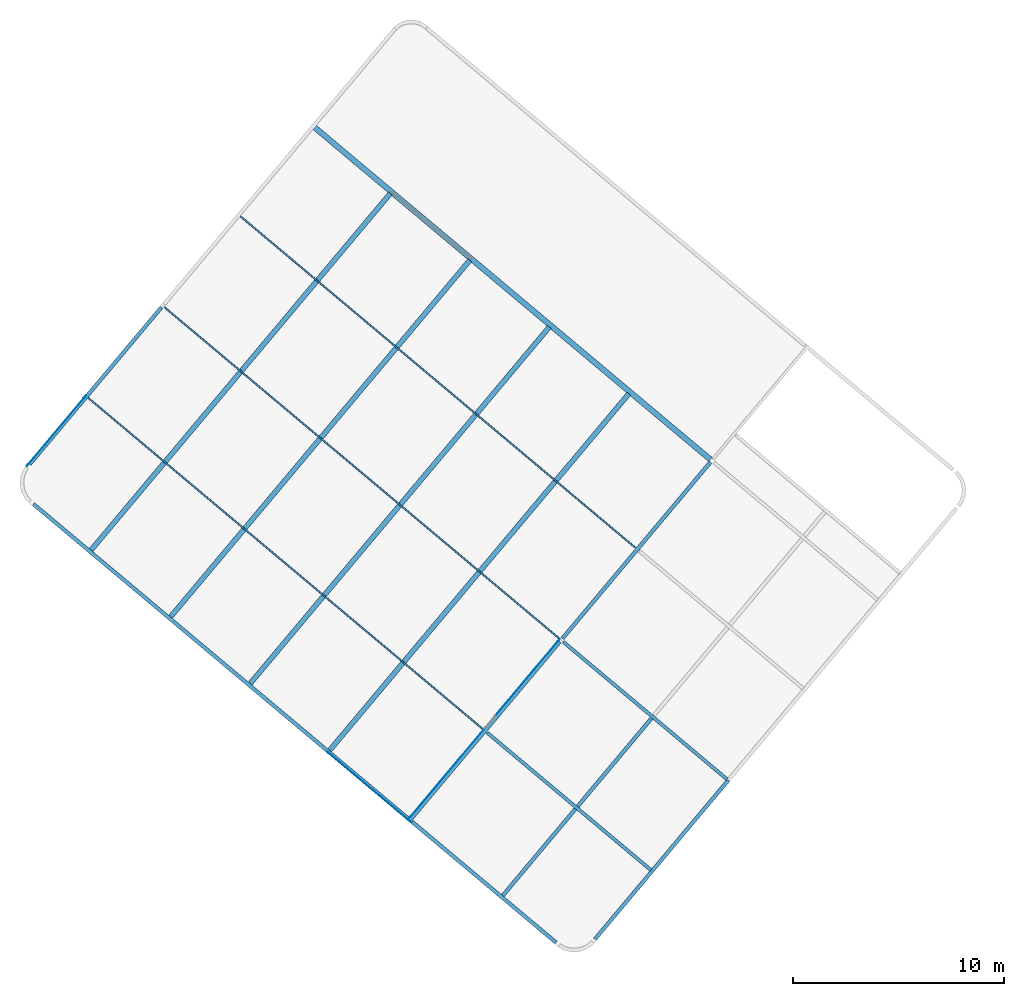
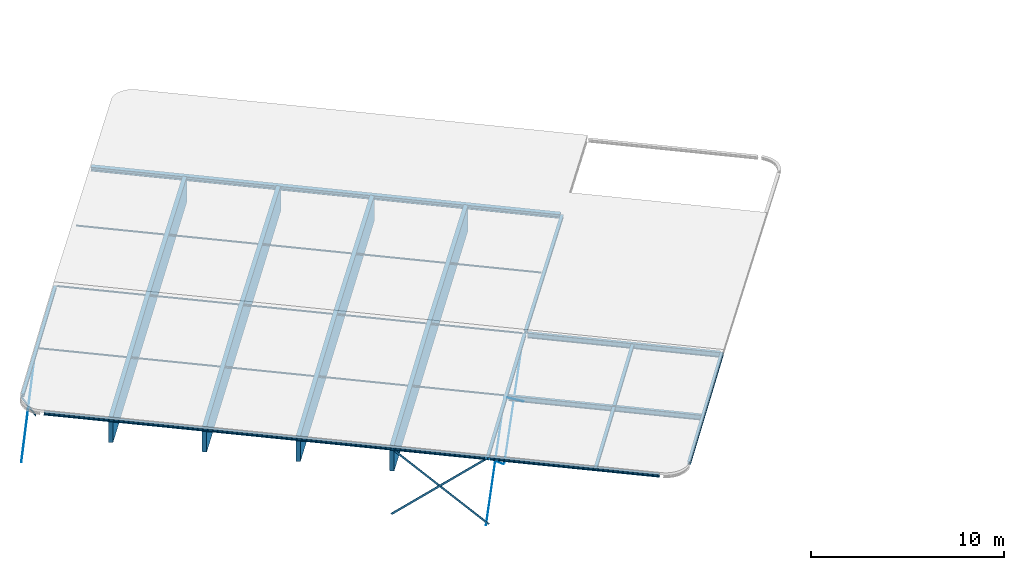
# One storey, part 1 of 14: 25 beams.
"""IFC2X3 building model written with IfcOpenShell, lengths in millimetres."""

from ifc_helpers import new_model, entity, si_unit, converted_unit, derived_unit, direction, frame, frame_2d, origin, origin_2d_with_axis, place, context, subcontext, project, spatial, polyline, circle_curve, parameter, trimmed, segment, composite_curve, rectangle, circle, i_section, outline, extrude, clip, halfspace, material, type_object, element, save


model = new_model("IFC2X3")

# Units and contexts
model_context = context("Model", 3, precision=0.01, world=origin(), true_north=direction((6.123031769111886e-17, 1.0)))
body_context = subcontext(model_context, "Body", "Model", "MODEL_VIEW")
ifc_project = project(units=[si_unit("LENGTHUNIT", "METRE", prefix="MILLI"), si_unit("AREAUNIT", "SQUARE_METRE"), si_unit("VOLUMEUNIT", "CUBIC_METRE"), derived_unit("MASSDENSITYUNIT", [(si_unit("MASSUNIT", "GRAM", prefix="KILO"), 1), (si_unit("LENGTHUNIT", "METRE"), -3)]), si_unit("MASSUNIT", "GRAM", prefix="KILO"), converted_unit("PLANEANGLEUNIT", "DEGREE", entity("IfcPlaneAngleMeasure", 0.017453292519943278), si_unit("PLANEANGLEUNIT", "RADIAN"), dimensions=[0, 0, 0, 0, 0, 0, 0])], contexts=[model_context])

# Site, building, storey
site_placement = place(None, origin())
site = spatial("IfcSite", under=ifc_project, at=site_placement, Name="Default", CompositionType="ELEMENT")
building_placement = place(site_placement, origin())
building = spatial("IfcBuilding", under=site, at=building_placement, Name="AT constructie", CompositionType="ELEMENT")
storey_placement = place(building_placement, frame((0.0, 0.0, 12043.0)))
storey = spatial("IfcBuildingStorey", under=building, at=storey_placement, Name="03 derde verdieping", CompositionType="ELEMENT", Elevation=12043.0)

# Beams
ifc_material_1 = material(Name="h2_staal_S355")
beam_type_1 = type_object("IfcBeamType", Name="balk HE_gen_HEB260", PredefinedType="NOTDEFINED")
beam_1_placement = place(storey_placement, frame((20474.44183367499, 53265.72627519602, 0.0), z_axis=(0.0, 0.0, 1.0), x_axis=(0.7660444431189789, -0.6427876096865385, 0.0)))
element("IfcBeam", 1, at=beam_1_placement, inside=storey, type_object=beam_type_1, material=ifc_material_1, Name="NLRS_28_SF_LIB_balk HEB_gen_AT:balk HE_gen_HEB260", ObjectType="NLRS_28_SF_LIB_balk HEB_gen_AT:balk HE_gen_HEB260", context=body_context, shape_type="SweptSolid", body=[
    extrude(i_section(OverallWidth=259.9999999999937, OverallDepth=259.9999999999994, WebThickness=10.000000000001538, FlangeThickness=17.499999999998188, FilletRadius=24.0, at=frame_2d((-1.0800249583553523e-12, 0.0), x_axis=(0.0, 1.0))), frame((0.0, 0.0, -310.0), z_axis=(1.0, 0.0, 0.0), x_axis=(0.0, 0.0, -1.0)), (0.0, 0.0, 1.0), 24702.499999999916),
])
beam_type_2 = type_object("IfcBeamType", Name="balk HE_gen_HEA180", PredefinedType="NOTDEFINED")
beam_2_placement = place(storey_placement, frame((7006.61724870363, 37215.397941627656, 0.8847858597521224), z_axis=(-0.010283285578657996, -0.01225514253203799, 0.9998720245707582), x_axis=(0.6427053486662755, 0.7659464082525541, 0.01599795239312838)))
element("IfcBeam", 2, at=beam_2_placement, inside=storey, type_object=beam_type_2, material=ifc_material_1, Name="NLRS_28_SF_LIB_balk HEA_gen_AT:balk HE_gen_HEA180", ObjectType="NLRS_28_SF_LIB_balk HEA_gen_AT:balk HE_gen_HEA180", context=body_context, shape_type="SweptSolid", body=[
    extrude(i_section(OverallWidth=179.99999999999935, OverallDepth=170.99999999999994, WebThickness=6.000000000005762, FlangeThickness=9.499999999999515, FilletRadius=15.000000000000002, at=frame_2d((-7.105427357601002e-15, 4.121147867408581e-13), x_axis=(0.0, 1.0))), frame((0.0, -90.0, -243.60000000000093), z_axis=(1.0, 0.0, 0.0), x_axis=(0.0, 0.0, -1.0)), (0.0, 0.0, 1.0), 9724.56300673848),
])
beam_3_placement = place(storey_placement, frame((25079.077392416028, 20190.812886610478, -21.91257927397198), z_axis=(-0.010283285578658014, -0.012255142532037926, 0.9998720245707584), x_axis=(0.6427053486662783, 0.765946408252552, 0.01599795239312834)))
element("IfcBeam", 3, at=beam_3_placement, inside=storey, type_object=beam_type_2, material=ifc_material_1, Name="NLRS_28_SF_LIB_balk HEA_gen_AT:balk HE_gen_HEA180", ObjectType="NLRS_28_SF_LIB_balk HEA_gen_AT:balk HE_gen_HEA180", context=body_context, shape_type="SweptSolid", body=[
    extrude(i_section(OverallWidth=180.00000000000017, OverallDepth=170.99999999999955, WebThickness=5.999999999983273, FlangeThickness=9.499999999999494, FilletRadius=15.000000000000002, at=frame_2d((0.0, 0.0), x_axis=(0.0, 1.0))), frame((0.0, 0.0, -243.60000000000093), z_axis=(1.0, 0.0, 0.0), x_axis=(0.0, 0.0, -1.0)), (0.0, 0.0, 1.0), 11150.017937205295),
])
beam_4_placement = place(storey_placement, frame((32378.9976852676, 28890.51912126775, 156.4464913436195), z_axis=(0.010283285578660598, 0.012255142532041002, 0.9998720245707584), x_axis=(0.6427053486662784, 0.7659464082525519, -0.01599795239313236)))
element("IfcBeam", 4, at=beam_4_placement, inside=storey, type_object=beam_type_2, material=ifc_material_1, Name="NLRS_28_SF_LIB_balk HEA_gen_AT:balk HE_gen_HEA180", ObjectType="NLRS_28_SF_LIB_balk HEA_gen_AT:balk HE_gen_HEA180", context=body_context, shape_type="SweptSolid", body=[
    extrude(i_section(OverallWidth=180.00000000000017, OverallDepth=171.00000000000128, WebThickness=6.000000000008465, FlangeThickness=9.49999999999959, FilletRadius=15.000000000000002, at=frame_2d((-2.1742607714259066e-12, 3.055333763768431e-12), x_axis=(0.0, 1.0))), frame((0.0, 0.0, -243.6000000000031), z_axis=(1.0, 0.0, 0.0), x_axis=(0.0, 0.0, -1.0)), (0.0, 0.0, 1.0), 10926.398310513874),
])
beam_5_placement = place(storey_placement, frame((7197.088176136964, 35198.260733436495, 0.0), z_axis=(0.0, 0.0, 1.0), x_axis=(0.7660444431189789, -0.6427876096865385, 0.0)))
element("IfcBeam", 5, at=beam_5_placement, inside=storey, type_object=beam_type_2, material=ifc_material_1, Name="NLRS_28_SF_LIB_balk HEA_gen_AT:balk HE_gen_HEA180", ObjectType="NLRS_28_SF_LIB_balk HEA_gen_AT:balk HE_gen_HEA180", context=body_context, shape_type="SweptSolid", body=[
    extrude(i_section(OverallWidth=179.99999999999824, OverallDepth=171.0000000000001, WebThickness=5.999999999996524, FlangeThickness=9.500000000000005, FilletRadius=15.000000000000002, at=frame_2d((0.0, -1.0459189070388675e-11), x_axis=(0.0, 1.0))), frame((0.0, 90.0, -265.50000000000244), z_axis=(1.0, 0.0, 0.0), x_axis=(0.0, 0.0, -1.0)), (0.0, 0.0, 1.0), 23215.000000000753),
])
beam_6_placement = place(storey_placement, frame((25179.981478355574, 20108.821596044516, 0.0), z_axis=(0.0, 0.0, 1.0), x_axis=(0.7660444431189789, -0.6427876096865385, 0.0)))
element("IfcBeam", 6, at=beam_6_placement, inside=storey, type_object=beam_type_2, material=ifc_material_1, Name="NLRS_28_SF_LIB_balk HEA_gen_AT:balk HE_gen_HEA180", ObjectType="NLRS_28_SF_LIB_balk HEA_gen_AT:balk HE_gen_HEA180", context=body_context, shape_type="SweptSolid", body=[
    extrude(i_section(OverallWidth=179.99999999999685, OverallDepth=171.0000000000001, WebThickness=5.9999999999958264, FlangeThickness=9.500000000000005, FilletRadius=15.000000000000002, at=frame_2d((0.0, 0.0), x_axis=(0.0, 1.0))), frame((0.0, 90.0, -265.50000000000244), z_axis=(1.0, 0.0, 0.0), x_axis=(0.0, 0.0, -1.0)), (0.0, 0.0, 1.0), 8919.999999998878),
])
beam_7_placement = place(storey_placement, frame((33982.95901279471, 14544.731805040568, 0.3376771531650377), z_axis=(-0.010283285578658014, -0.012255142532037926, 0.9998720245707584), x_axis=(0.6427053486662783, 0.765946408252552, 0.01599795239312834)))
element("IfcBeam", 7, at=beam_7_placement, inside=storey, type_object=beam_type_2, material=ifc_material_1, Name="NLRS_28_SF_LIB_balk HEA_gen_AT:balk HE_gen_HEA180", ObjectType="NLRS_28_SF_LIB_balk HEA_gen_AT:balk HE_gen_HEA180", context=body_context, shape_type="SweptSolid", body=[
    extrude(i_section(OverallWidth=180.00000000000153, OverallDepth=170.99999999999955, WebThickness=5.999999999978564, FlangeThickness=9.499999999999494, FilletRadius=15.000000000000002, at=frame_2d((-7.105427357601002e-15, 2.3518964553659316e-12), x_axis=(0.0, 1.0))), frame((0.0, 90.0, -243.60000000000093), z_axis=(1.0, 0.0, 0.0), x_axis=(0.0, 0.0, -1.0)), (0.0, 0.0, 1.0), 9849.98871931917),
])
beam_8_placement = place(storey_placement, frame((29426.379607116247, 16542.993201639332, -21.912579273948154), z_axis=(-0.010283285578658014, -0.012255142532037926, 0.9998720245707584), x_axis=(0.6427053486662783, 0.765946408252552, 0.01599795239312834)))
element("IfcBeam", 8, at=beam_8_placement, inside=storey, type_object=beam_type_2, material=ifc_material_1, Name="NLRS_28_SF_LIB_balk HEA_gen_AT:balk HE_gen_HEA180", ObjectType="NLRS_28_SF_LIB_balk HEA_gen_AT:balk HE_gen_HEA180", context=body_context, shape_type="SweptSolid", body=[
    extrude(i_section(OverallWidth=180.00000000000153, OverallDepth=170.99999999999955, WebThickness=5.999999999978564, FlangeThickness=9.499999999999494, FilletRadius=15.000000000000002, at=frame_2d((7.105427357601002e-15, -2.3518964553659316e-12), x_axis=(0.0, 1.0))), frame((0.0, 0.0, -243.59999999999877), z_axis=(1.0, 0.0, 0.0), x_axis=(0.0, 0.0, -1.0)), (0.0, 0.0, 1.0), 11150.017937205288),
])
beam_type_3 = type_object("IfcBeamType", Name="balk strip liggend_gen_120x10", PredefinedType="NOTDEFINED")
beam_9_placement = place(storey_placement, frame((9665.89881384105, 40310.70941882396, -295.19604090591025), z_axis=(-0.45067927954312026, -0.5370986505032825, 0.7130310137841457), x_axis=(-0.45832750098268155, -0.5462134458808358, -0.7011324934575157)))
element("IfcBeam", 9, at=beam_9_placement, inside=storey, type_object=beam_type_3, material=ifc_material_1, Name="NLRS_28_SF_LIB_balk strip_gen_AT:balk strip liggend_gen_120x10", ObjectType="NLRS_28_SF_LIB_balk strip_gen_AT:balk strip liggend_gen_120x10", context=body_context, shape_type="SweptSolid", body=[
    extrude(rectangle(XDim=119.99999999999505, YDim=9.99999999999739, at=frame_2d((-2.3661073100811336e-12, 4.027889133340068e-12), x_axis=(1.0, 0.0))), frame((0.0, -5.0, 0.0), z_axis=(1.0, 0.0, 0.0), x_axis=(0.0, 0.0, -1.0)), (0.0, 0.0, 1.0), 5860.00000000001),
])
beam_10_placement = place(storey_placement, frame((6977.19553378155, 37106.43762539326, -243.60000000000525), z_axis=(0.44651779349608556, 0.5321391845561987, 0.7193398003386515), x_axis=(0.4623827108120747, 0.5510462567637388, -0.6946583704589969)))
element("IfcBeam", 10, at=beam_10_placement, inside=storey, type_object=beam_type_3, material=ifc_material_1, Name="NLRS_28_SF_LIB_balk strip_gen_AT:balk strip liggend_gen_120x10", ObjectType="NLRS_28_SF_LIB_balk strip_gen_AT:balk strip liggend_gen_120x10", context=body_context, shape_type="SweptSolid", body=[
    extrude(rectangle(XDim=119.99999999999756, YDim=9.99999999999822, at=frame_2d((1.936228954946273e-12, -1.3913314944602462e-12), x_axis=(1.0, 0.0))), frame((0.0, 5.0, 0.0), z_axis=(1.0, 0.0, 0.0), x_axis=(0.0, 0.0, -1.0)), (0.0, 0.0, 1.0), 5984.092579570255),
])
beam_11_placement = place(storey_placement, frame((21258.574068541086, 23467.80699000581, -261.4662911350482), z_axis=(0.48406678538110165, -0.406180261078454, 0.7750464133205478), x_axis=(0.5937199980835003, -0.4981902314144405, -0.6319043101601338)))
element("IfcBeam", 11, at=beam_11_placement, inside=storey, type_object=beam_type_3, material=ifc_material_1, Name="NLRS_28_SF_LIB_balk strip_gen_AT:balk strip liggend_gen_120x10", ObjectType="NLRS_28_SF_LIB_balk strip_gen_AT:balk strip liggend_gen_120x10", context=body_context, shape_type="SweptSolid", body=[
    extrude(rectangle(XDim=119.99999999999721, YDim=9.999999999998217, at=frame_2d((-3.6060043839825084e-12, -2.6645352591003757e-13), x_axis=(1.0, 0.0))), frame((0.0, -5.0, 0.0), z_axis=(1.0, 0.0, 0.0), x_axis=(0.0, 0.0, -1.0)), (0.0, 0.0, 1.0), 6583.852242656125),
])
beam_12_placement = place(storey_placement, frame((25043.645432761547, 20291.755004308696, -327.4469842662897), z_axis=(-0.4859767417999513, 0.40778290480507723, 0.7730069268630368), x_axis=(-0.5921576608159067, 0.49687927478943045, -0.6343975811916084)))
element("IfcBeam", 12, at=beam_12_placement, inside=storey, type_object=beam_type_3, material=ifc_material_1, Name="NLRS_28_SF_LIB_balk strip_gen_AT:balk strip liggend_gen_120x10", ObjectType="NLRS_28_SF_LIB_balk strip_gen_AT:balk strip liggend_gen_120x10", context=body_context, shape_type="SweptSolid", body=[
    extrude(rectangle(XDim=119.99999999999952, YDim=9.99999999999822, at=frame_2d((-6.643574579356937e-13, -3.0531133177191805e-12), x_axis=(1.0, 0.0))), frame((0.0, 5.0, 0.0), z_axis=(1.0, 0.0, 0.0), x_axis=(0.0, 0.0, -1.0)), (0.0, 0.0, 1.0), 6420.347643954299),
])
beam_type_4 = type_object("IfcBeamType", Name="staaf_gen_ø16", PredefinedType="NOTDEFINED")
beam_13_placement = place(storey_placement, frame((32140.2096765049, 28725.610579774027, -373.07966445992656), z_axis=(-0.3820250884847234, -0.4552797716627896, 0.8042245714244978), x_axis=(-0.5169455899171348, -0.616071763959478, -0.5943255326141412)))
element("IfcBeam", 13, at=beam_13_placement, inside=storey, type_object=beam_type_4, material=ifc_material_1, Name="NLRS_28_SF_LIB_balk staaf_gen_AT:staaf_gen_ø16", ObjectType="NLRS_28_SF_LIB_balk staaf_gen_AT:staaf_gen_ø16", context=body_context, shape_type="SweptSolid", body=[
    extrude(circle(Radius=7.999999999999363, at=origin_2d_with_axis()), frame((0.0, -8.0, 0.0), z_axis=(1.0, 0.0, 0.0), x_axis=(0.0, 0.0, -1.0)), (0.0, 0.0, 1.0), 6780.4220507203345),
])
beam_14_placement = place(storey_placement, frame((28634.406527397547, 24547.55708189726, -246.92828179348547), z_axis=(-0.3951794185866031, -0.4709564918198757, 0.7886908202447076), x_axis=(-0.5069606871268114, -0.6041722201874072, -0.6147900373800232)))
element("IfcBeam", 14, at=beam_14_placement, inside=storey, type_object=beam_type_4, material=ifc_material_1, Name="NLRS_28_SF_LIB_balk staaf_gen_AT:staaf_gen_ø16", ObjectType="NLRS_28_SF_LIB_balk staaf_gen_AT:staaf_gen_ø16", context=body_context, shape_type="SweptSolid", body=[
    extrude(circle(Radius=8.000000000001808, at=frame_2d((-1.708094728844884e-12, -1.9367828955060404e-25), x_axis=(1.0, 0.0))), frame((0.0, -8.0, 0.0), z_axis=(1.0, 0.0, 0.0), x_axis=(0.0, 0.0, -1.0)), (0.0, 0.0, 1.0), 6999.866274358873),
])
beam_15_placement = place(storey_placement, frame((25158.38453925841, 20404.99538959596, -338.74225617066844), z_axis=(0.3932812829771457, 0.46869438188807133, 0.7909838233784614), x_axis=(0.5084346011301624, 0.6059287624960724, -0.6118370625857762)))
element("IfcBeam", 15, at=beam_15_placement, inside=storey, type_object=beam_type_4, material=ifc_material_1, Name="NLRS_28_SF_LIB_balk staaf_gen_AT:staaf_gen_ø16", ObjectType="NLRS_28_SF_LIB_balk staaf_gen_AT:staaf_gen_ø16", context=body_context, shape_type="SweptSolid", body=[
    extrude(circle(Radius=8.00000000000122, at=origin_2d_with_axis()), frame((0.0, 8.0, 0.0), z_axis=(1.0, 0.0, 0.0), x_axis=(0.0, 0.0, -1.0)), (0.0, 0.0, 1.0), 6519.2929612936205),
])
beam_16_placement = place(storey_placement, frame((29179.938880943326, 25197.697224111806, -867.6360112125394), z_axis=(0.38202508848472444, 0.45527977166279, 0.8042245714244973), x_axis=(0.516945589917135, 0.616071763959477, -0.5943255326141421)))
element("IfcBeam", 16, at=beam_16_placement, inside=storey, type_object=beam_type_4, material=ifc_material_1, Name="NLRS_28_SF_LIB_balk staaf_gen_AT:staaf_gen_ø16", ObjectType="NLRS_28_SF_LIB_balk staaf_gen_AT:staaf_gen_ø16", context=body_context, shape_type="SweptSolid", body=[
    extrude(circle(Radius=7.999999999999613, at=frame_2d((1.7417367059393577e-12, 9.112858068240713e-26), x_axis=(1.0, 0.0))), frame((6.096022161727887e-07, 8.0, 0.0), z_axis=(1.0, 0.0, 0.0), x_axis=(0.0, 0.0, -1.0)), (0.0, 0.0, 1.0), 5944.324775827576),
])
ifc_material_2 = material(Name="i4_hout_gen")
beam_type_5 = type_object("IfcBeamType", Name="balk hout gelamineerd_gen_bxh 240x1600/1777 GL28c", PredefinedType="NOTDEFINED")
beam_17_placement = place(storey_placement, frame((17553.571582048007, 26756.1667122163, 0.0), z_axis=(0.0, 0.0, 1.0), x_axis=(0.6427876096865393, 0.7660444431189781, 0.0)))
element("IfcBeam", 17, at=beam_17_placement, inside=storey, type_object=beam_type_5, material=ifc_material_2, Name="NLRS_28_SF_LIB_balk hout gelamineerd_gen_AT:balk hout gelamineerd_gen_bxh 240x1600/1777 GL28c", ObjectType="NLRS_28_SF_LIB_balk hout gelamineerd_gen_AT:balk hout gelamineerd_gen_bxh 240x1600/1777 GL28c", context=body_context, shape_type="SweptSolid", body=[
    clip(clip(extrude(rectangle(XDim=1776.999999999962, YDim=239.99999999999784, at=frame_2d((6.110667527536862e-12, 1.0800249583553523e-11), x_axis=(0.0, 1.0))), frame((0.0, 0.0, -888.5000000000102), z_axis=(1.0, 0.0, 0.0), x_axis=(0.0, 1.0, 0.0)), (0.0, 0.0, 1.0), 22089.999999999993), halfspace(frame((11060.000000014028, 22090.0, 0.0), z_axis=(-0.01599795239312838, 0.0, 0.9998720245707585), x_axis=(0.0, -1.0, 0.0)), False)), halfspace(frame((11059.99999999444, -22090.0, 0.0), z_axis=(0.015997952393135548, 0.0, 0.9998720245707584), x_axis=(0.0, 1.0, 0.0)), False)),
])
beam_18_placement = place(storey_placement, frame((13776.97247747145, 29925.109627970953, 0.0), z_axis=(0.0, 0.0, 1.0), x_axis=(0.6427876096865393, 0.7660444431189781, 0.0)))
element("IfcBeam", 18, at=beam_18_placement, inside=storey, type_object=beam_type_5, material=ifc_material_2, Name="NLRS_28_SF_LIB_balk hout gelamineerd_gen_AT:balk hout gelamineerd_gen_bxh 240x1600/1777 GL28c", ObjectType="NLRS_28_SF_LIB_balk hout gelamineerd_gen_AT:balk hout gelamineerd_gen_bxh 240x1600/1777 GL28c", context=body_context, shape_type="SweptSolid", body=[
    clip(clip(extrude(rectangle(XDim=1776.9999999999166, YDim=239.99999999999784, at=frame_2d((0.0, 2.1657342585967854e-11), x_axis=(0.0, 1.0))), frame((0.0, 0.0, -888.500000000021), z_axis=(1.0, 0.0, 0.0), x_axis=(0.0, 1.0, 0.0)), (0.0, 0.0, 1.0), 22090.000000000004), halfspace(frame((11060.000000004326, 22090.0, 0.0), z_axis=(-0.015997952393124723, 0.0, 0.9998720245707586), x_axis=(0.0, -1.0, 0.0)), False)), halfspace(frame((11059.999999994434, -22090.0, 0.0), z_axis=(0.015997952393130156, 0.0, 0.9998720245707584), x_axis=(0.0, 1.0, 0.0)), False)),
])
beam_19_placement = place(storey_placement, frame((10000.373372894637, 33094.05254372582, 0.0), z_axis=(0.0, 0.0, 1.0), x_axis=(0.6427876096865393, 0.7660444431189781, 0.0)))
element("IfcBeam", 19, at=beam_19_placement, inside=storey, type_object=beam_type_5, material=ifc_material_2, Name="NLRS_28_SF_LIB_balk hout gelamineerd_gen_AT:balk hout gelamineerd_gen_bxh 240x1600/1777 GL28c", ObjectType="NLRS_28_SF_LIB_balk hout gelamineerd_gen_AT:balk hout gelamineerd_gen_bxh 240x1600/1777 GL28c", context=body_context, shape_type="SweptSolid", body=[
    clip(clip(extrude(rectangle(XDim=1776.9999999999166, YDim=239.99999999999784, at=frame_2d((5.279332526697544e-12, 2.1657342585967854e-11), x_axis=(0.0, 1.0))), frame((0.0, 0.0, -888.500000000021), z_axis=(1.0, 0.0, 0.0), x_axis=(0.0, 1.0, 0.0)), (0.0, 0.0, 1.0), 22089.999999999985), halfspace(frame((11060.000000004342, 22090.0, 0.0), z_axis=(-0.015997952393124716, 0.0, 0.9998720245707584), x_axis=(0.0, -1.0, 0.0)), False)), halfspace(frame((11059.999999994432, -22090.0, 0.0), z_axis=(0.015997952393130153, 0.0, 0.9998720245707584), x_axis=(0.0, 1.0, 0.0)), False)),
])
beam_20_placement = place(storey_placement, frame((21330.170686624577, 23587.223796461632, 0.0), z_axis=(0.0, 0.0, 1.0), x_axis=(0.6427876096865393, 0.7660444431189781, 0.0)))
element("IfcBeam", 20, at=beam_20_placement, inside=storey, type_object=beam_type_5, material=ifc_material_2, Name="NLRS_28_SF_LIB_balk hout gelamineerd_gen_AT:balk hout gelamineerd_gen_bxh 240x1600/1777 GL28c", ObjectType="NLRS_28_SF_LIB_balk hout gelamineerd_gen_AT:balk hout gelamineerd_gen_bxh 240x1600/1777 GL28c", context=body_context, shape_type="SweptSolid", body=[
    clip(clip(extrude(rectangle(XDim=1776.9999999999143, YDim=239.9999999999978, at=frame_2d((3.062439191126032e-12, 2.1657342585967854e-11), x_axis=(0.0, 1.0))), frame((0.0, 0.0, -888.500000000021), z_axis=(1.0, 0.0, 0.0), x_axis=(0.0, 1.0, 0.0)), (0.0, 0.0, 1.0), 22089.999999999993), halfspace(frame((11060.00000000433, 22090.0, 0.0), z_axis=(-0.01599795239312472, 0.0, 0.9998720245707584), x_axis=(0.0, -1.0, 0.0)), False)), halfspace(frame((11059.99999999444, -22090.0, 0.0), z_axis=(0.015997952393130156, 0.0, 0.9998720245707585), x_axis=(0.0, 1.0, 0.0)), False)),
])
beam_type_6 = type_object("IfcBeamType", Name="balk_gen_K80x80x4", PredefinedType="NOTDEFINED")
beam_21_placement = place(storey_placement, frame((13461.31767567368, 44627.78007575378, 0.0), z_axis=(0.0, 0.0, 1.0), x_axis=(0.7660444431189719, -0.6427876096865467, 0.0)))
element("IfcBeam", 21, at=beam_21_placement, inside=storey, type_object=beam_type_6, material=ifc_material_1, Name="NLRS_28_SF_LIB_balk koker vierkant_gen_AT:balk_gen_K80x80x4", ObjectType="NLRS_28_SF_LIB_balk koker vierkant_gen_AT:balk_gen_K80x80x4", context=body_context, shape_type="SweptSolid", body=[
    extrude(outline(composite_curve([segment(polyline([(-31.0, -40.0), (31.0, -40.0)]), True, "CONTINUOUS"), segment(trimmed(circle_curve(frame_2d((31.0, -31.0), x_axis=(0.0, -1.0)), 9.0), [parameter(359.9999999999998)], [parameter(89.99999999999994)], True, "PARAMETER"), True, "CONTINUOUS"), segment(polyline([(40.0, -31.0), (40.0, 31.0)]), True, "CONTINUOUS"), segment(trimmed(circle_curve(frame_2d((31.0, 31.0), x_axis=(0.0, -1.0)), 9.0), [parameter(90.0000000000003)], [parameter(180.00000000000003)], True, "PARAMETER"), True, "CONTINUOUS"), segment(polyline([(31.0, 40.0), (-31.0, 40.0)]), True, "CONTINUOUS"), segment(trimmed(circle_curve(frame_2d((-31.0, 31.0), x_axis=(0.0, -1.0)), 9.0), [parameter(179.99999999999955)], [parameter(269.9999999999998)], True, "PARAMETER"), True, "CONTINUOUS"), segment(polyline([(-40.0, 31.0), (-40.0, -31.0)]), True, "CONTINUOUS"), segment(trimmed(circle_curve(frame_2d((-31.0, -31.0), x_axis=(0.0, -1.0)), 9.0), [parameter(270.0000000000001)], [parameter(1.0177774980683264e-13)], True, "PARAMETER"), True, "CONTINUOUS")], self_intersect=False), holes=[composite_curve([segment(trimmed(circle_curve(frame_2d((-31.0, 31.0), x_axis=(0.0, -1.0)), 5.0), [parameter(180.0000000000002)], [parameter(270.0000000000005)], True, "PARAMETER"), False, "CONTINUOUS"), segment(polyline([(-31.0, 36.0), (31.0, 36.0)]), True, "CONTINUOUS"), segment(trimmed(circle_curve(frame_2d((31.0, 31.0), x_axis=(0.0, -1.0)), 5.0), [parameter(90.0000000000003)], [parameter(179.99999999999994)], True, "PARAMETER"), False, "CONTINUOUS"), segment(polyline([(36.0, 31.0), (36.0, -31.0)]), True, "CONTINUOUS"), segment(trimmed(circle_curve(frame_2d((31.0, -31.0), x_axis=(0.0, -1.0)), 5.0), [parameter(2.0355549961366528e-13)], [parameter(90.00000000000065)], True, "PARAMETER"), False, "CONTINUOUS"), segment(polyline([(31.0, -36.0), (-31.0, -36.0)]), True, "CONTINUOUS"), segment(trimmed(circle_curve(frame_2d((-31.0, -31.0), x_axis=(0.0, -1.0)), 5.0), [parameter(269.99999999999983)], [parameter(1.5266662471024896e-13)], True, "PARAMETER"), False, "CONTINUOUS"), segment(polyline([(-36.0, -31.0), (-36.0, 31.0)]), True, "CONTINUOUS")], self_intersect=False)]), frame((0.0, 0.0, -90.0), z_axis=(1.0, 0.0, 0.0), x_axis=(0.0, 0.0, -1.0)), (0.0, 0.0, 1.0), 24477.49999999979),
])
beam_22_placement = place(storey_placement, frame((9845.637371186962, 40318.78008320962, 0.0), z_axis=(0.0, 0.0, 1.0), x_axis=(0.7660444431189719, -0.6427876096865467, 0.0)))
element("IfcBeam", 22, at=beam_22_placement, inside=storey, type_object=beam_type_6, material=ifc_material_1, Name="NLRS_28_SF_LIB_balk koker vierkant_gen_AT:balk_gen_K80x80x4", ObjectType="NLRS_28_SF_LIB_balk koker vierkant_gen_AT:balk_gen_K80x80x4", context=body_context, shape_type="SweptSolid", body=[
    extrude(outline(composite_curve([segment(polyline([(-31.0, -40.0), (31.0, -40.0)]), True, "CONTINUOUS"), segment(trimmed(circle_curve(frame_2d((31.0, -31.0), x_axis=(0.0, -1.0)), 9.0), [parameter(359.9999999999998)], [parameter(89.99999999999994)], True, "PARAMETER"), True, "CONTINUOUS"), segment(polyline([(40.0, -31.0), (40.0, 31.0)]), True, "CONTINUOUS"), segment(trimmed(circle_curve(frame_2d((31.0, 31.0), x_axis=(0.0, -1.0)), 9.0), [parameter(90.0000000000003)], [parameter(180.00000000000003)], True, "PARAMETER"), True, "CONTINUOUS"), segment(polyline([(31.0, 40.0), (-31.0, 40.0)]), True, "CONTINUOUS"), segment(trimmed(circle_curve(frame_2d((-31.0, 31.0), x_axis=(0.0, -1.0)), 9.0), [parameter(179.99999999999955)], [parameter(269.9999999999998)], True, "PARAMETER"), True, "CONTINUOUS"), segment(polyline([(-40.0, 31.0), (-40.0, -31.0)]), True, "CONTINUOUS"), segment(trimmed(circle_curve(frame_2d((-31.0, -31.0), x_axis=(0.0, -1.0)), 9.0), [parameter(270.0000000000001)], [parameter(1.0177774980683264e-13)], True, "PARAMETER"), True, "CONTINUOUS")], self_intersect=False), holes=[composite_curve([segment(trimmed(circle_curve(frame_2d((-31.0, 31.0), x_axis=(0.0, -1.0)), 5.0), [parameter(180.0000000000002)], [parameter(270.0000000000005)], True, "PARAMETER"), False, "CONTINUOUS"), segment(polyline([(-31.0, 36.0), (31.0, 36.0)]), True, "CONTINUOUS"), segment(trimmed(circle_curve(frame_2d((31.0, 31.0), x_axis=(0.0, -1.0)), 5.0), [parameter(90.0000000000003)], [parameter(179.99999999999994)], True, "PARAMETER"), False, "CONTINUOUS"), segment(polyline([(36.0, 31.0), (36.0, -31.0)]), True, "CONTINUOUS"), segment(trimmed(circle_curve(frame_2d((31.0, -31.0), x_axis=(0.0, -1.0)), 5.0), [parameter(2.0355549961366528e-13)], [parameter(90.00000000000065)], True, "PARAMETER"), False, "CONTINUOUS"), segment(polyline([(31.0, -36.0), (-31.0, -36.0)]), True, "CONTINUOUS"), segment(trimmed(circle_curve(frame_2d((-31.0, -31.0), x_axis=(0.0, -1.0)), 5.0), [parameter(269.99999999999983)], [parameter(1.5266662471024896e-13)], True, "PARAMETER"), False, "CONTINUOUS"), segment(polyline([(-36.0, -31.0), (-36.0, 31.0)]), True, "CONTINUOUS")], self_intersect=False)]), frame((0.0, 0.0, -140.0), z_axis=(1.0, 0.0, 0.0), x_axis=(0.0, 0.0, -1.0)), (0.0, 0.0, 1.0), 24477.499999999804),
])
beam_23_placement = place(storey_placement, frame((17076.997980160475, 48936.78006829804, 0.0), z_axis=(0.0, 0.0, 1.0), x_axis=(0.7660444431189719, -0.6427876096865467, 0.0)))
element("IfcBeam", 23, at=beam_23_placement, inside=storey, type_object=beam_type_6, material=ifc_material_1, Name="NLRS_28_SF_LIB_balk koker vierkant_gen_AT:balk_gen_K80x80x4", ObjectType="NLRS_28_SF_LIB_balk koker vierkant_gen_AT:balk_gen_K80x80x4", context=body_context, shape_type="SweptSolid", body=[
    extrude(outline(composite_curve([segment(polyline([(-31.0, -40.0), (31.0, -40.0)]), True, "CONTINUOUS"), segment(trimmed(circle_curve(frame_2d((31.0, -31.0), x_axis=(0.0, -1.0)), 9.0), [parameter(359.9999999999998)], [parameter(89.99999999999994)], True, "PARAMETER"), True, "CONTINUOUS"), segment(polyline([(40.0, -31.0), (40.0, 31.0)]), True, "CONTINUOUS"), segment(trimmed(circle_curve(frame_2d((31.0, 31.0), x_axis=(0.0, -1.0)), 9.0), [parameter(90.0000000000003)], [parameter(180.00000000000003)], True, "PARAMETER"), True, "CONTINUOUS"), segment(polyline([(31.0, 40.0), (-31.0, 40.0)]), True, "CONTINUOUS"), segment(trimmed(circle_curve(frame_2d((-31.0, 31.0), x_axis=(0.0, -1.0)), 9.0), [parameter(179.99999999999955)], [parameter(269.9999999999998)], True, "PARAMETER"), True, "CONTINUOUS"), segment(polyline([(-40.0, 31.0), (-40.0, -31.0)]), True, "CONTINUOUS"), segment(trimmed(circle_curve(frame_2d((-31.0, -31.0), x_axis=(0.0, -1.0)), 9.0), [parameter(270.0000000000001)], [parameter(1.0177774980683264e-13)], True, "PARAMETER"), True, "CONTINUOUS")], self_intersect=False), holes=[composite_curve([segment(trimmed(circle_curve(frame_2d((-31.0, 31.0), x_axis=(0.0, -1.0)), 5.0), [parameter(180.0000000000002)], [parameter(270.0000000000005)], True, "PARAMETER"), False, "CONTINUOUS"), segment(polyline([(-31.0, 36.0), (31.0, 36.0)]), True, "CONTINUOUS"), segment(trimmed(circle_curve(frame_2d((31.0, 31.0), x_axis=(0.0, -1.0)), 5.0), [parameter(90.0000000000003)], [parameter(179.99999999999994)], True, "PARAMETER"), False, "CONTINUOUS"), segment(polyline([(36.0, 31.0), (36.0, -31.0)]), True, "CONTINUOUS"), segment(trimmed(circle_curve(frame_2d((31.0, -31.0), x_axis=(0.0, -1.0)), 5.0), [parameter(2.0355549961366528e-13)], [parameter(90.00000000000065)], True, "PARAMETER"), False, "CONTINUOUS"), segment(polyline([(31.0, -36.0), (-31.0, -36.0)]), True, "CONTINUOUS"), segment(trimmed(circle_curve(frame_2d((-31.0, -31.0), x_axis=(0.0, -1.0)), 5.0), [parameter(269.99999999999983)], [parameter(1.5266662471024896e-13)], True, "PARAMETER"), False, "CONTINUOUS"), segment(polyline([(-36.0, -31.0), (-36.0, 31.0)]), True, "CONTINUOUS")], self_intersect=False)]), frame((0.0, 0.0, -140.0), z_axis=(1.0, 0.0, 0.0), x_axis=(0.0, 0.0, -1.0)), (0.0, 0.0, 1.0), 24477.49999999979),
])
beam_type_7 = type_object("IfcBeamType", Name="balk IPE_gen_330", PredefinedType="NOTDEFINED")
beam_24_placement = place(storey_placement, frame((28795.661782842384, 24417.8215885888, 0.0), z_axis=(0.0, 0.0, 1.0), x_axis=(0.7660444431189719, -0.6427876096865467, 0.0)))
element("IfcBeam", 24, at=beam_24_placement, inside=storey, type_object=beam_type_7, material=ifc_material_1, Name="NLRS_28_SF_LIB_balk IPE_gen_AT:balk IPE_gen_330", ObjectType="NLRS_28_SF_LIB_balk IPE_gen_AT:balk IPE_gen_330", context=body_context, shape_type="SweptSolid", body=[
    extrude(outline(composite_curve([segment(polyline([(153.49999999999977, -80.0), (165.0, -80.0)]), True, "CONTINUOUS"), segment(polyline([(165.0, -80.0), (165.0, 80.0)]), True, "CONTINUOUS"), segment(polyline([(165.0, 80.0), (153.49999999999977, 80.0)]), True, "CONTINUOUS"), segment(polyline([(153.49999999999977, 80.0), (153.49999999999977, 21.749999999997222)]), True, "CONTINUOUS"), segment(trimmed(circle_curve(frame_2d((135.4999999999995, 21.749999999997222), x_axis=(1.0, 0.0)), 18.00000000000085), [parameter(270.00000000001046)], [parameter(0.0)], True, "PARAMETER"), False, "CONTINUOUS"), segment(polyline([(135.4999999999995, 3.7499999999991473), (-135.49999999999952, 3.749999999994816)]), True, "CONTINUOUS"), segment(trimmed(circle_curve(frame_2d((-135.49999999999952, 21.749999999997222), x_axis=(0.0, -1.0)), 18.00000000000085), [parameter(270.00000000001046)], [parameter(0.0)], True, "PARAMETER"), False, "CONTINUOUS"), segment(polyline([(-153.49999999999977, 21.749999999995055), (-153.49999999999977, 80.0)]), True, "CONTINUOUS"), segment(polyline([(-153.49999999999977, 80.0), (-165.0, 80.0)]), True, "CONTINUOUS"), segment(polyline([(-165.0, 80.0), (-165.0, -80.0)]), True, "CONTINUOUS"), segment(polyline([(-165.0, -80.0), (-153.49999999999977, -80.0)]), True, "CONTINUOUS"), segment(polyline([(-153.49999999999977, -80.0), (-153.49999999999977, -21.750000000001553)]), True, "CONTINUOUS"), segment(trimmed(circle_curve(frame_2d((-135.49999999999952, -21.750000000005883), x_axis=(-1.0, 0.0)), 18.000000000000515), [parameter(269.9999999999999)], [parameter(0.0)], True, "PARAMETER"), False, "CONTINUOUS"), segment(polyline([(-135.49999999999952, -3.750000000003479), (135.4999999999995, -3.750000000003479)]), True, "CONTINUOUS"), segment(trimmed(circle_curve(frame_2d((135.4999999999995, -21.750000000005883), x_axis=(0.0, 1.0)), 18.000000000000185), [parameter(269.9999999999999)], [parameter(0.0)], True, "PARAMETER"), False, "CONTINUOUS"), segment(polyline([(153.49999999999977, -21.750000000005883), (153.49999999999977, -80.0)]), True, "CONTINUOUS")], self_intersect=False)), frame((0.0, 0.0, -255.0), z_axis=(1.0, 0.0, 0.0), x_axis=(0.0, 0.0, -1.0)), (0.0, 0.0, 1.0), 10159.999999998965),
])
beam_25_placement = place(storey_placement, frame((32411.342087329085, 28726.821581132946, 0.0), z_axis=(0.0, 0.0, 1.0), x_axis=(0.7660444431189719, -0.6427876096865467, 0.0)))
element("IfcBeam", 25, at=beam_25_placement, inside=storey, type_object=beam_type_7, material=ifc_material_1, Name="NLRS_28_SF_LIB_balk IPE_gen_AT:balk IPE_gen_330", ObjectType="NLRS_28_SF_LIB_balk IPE_gen_AT:balk IPE_gen_330", context=body_context, shape_type="SweptSolid", body=[
    extrude(outline(composite_curve([segment(polyline([(153.49999999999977, -80.0), (165.0, -80.0)]), True, "CONTINUOUS"), segment(polyline([(165.0, -80.0), (165.0, 80.0)]), True, "CONTINUOUS"), segment(polyline([(165.0, 80.0), (153.49999999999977, 80.0)]), True, "CONTINUOUS"), segment(polyline([(153.49999999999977, 80.0), (153.49999999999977, 21.749999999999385)]), True, "CONTINUOUS"), segment(trimmed(circle_curve(frame_2d((135.4999999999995, 21.749999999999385), x_axis=(1.0, 0.0)), 18.000000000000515), [parameter(269.9999999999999)], [parameter(0.0)], True, "PARAMETER"), False, "CONTINUOUS"), segment(polyline([(135.4999999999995, 3.750000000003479), (-135.49999999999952, 3.750000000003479)]), True, "CONTINUOUS"), segment(trimmed(circle_curve(frame_2d((-135.49999999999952, 21.749999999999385), x_axis=(0.0, -1.0)), 18.000000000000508), [parameter(269.9999999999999)], [parameter(0.0)], True, "PARAMETER"), False, "CONTINUOUS"), segment(polyline([(-153.49999999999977, 21.749999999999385), (-153.49999999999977, 80.0)]), True, "CONTINUOUS"), segment(polyline([(-153.49999999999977, 80.0), (-165.0, 80.0)]), True, "CONTINUOUS"), segment(polyline([(-165.0, 80.0), (-165.0, -80.0)]), True, "CONTINUOUS"), segment(polyline([(-165.0, -80.0), (-153.49999999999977, -80.0)]), True, "CONTINUOUS"), segment(polyline([(-153.49999999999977, -80.0), (-153.49999999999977, -21.749999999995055)]), True, "CONTINUOUS"), segment(trimmed(circle_curve(frame_2d((-135.49999999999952, -21.749999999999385), x_axis=(-1.0, 0.0)), 18.000000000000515), [parameter(269.9999999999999)], [parameter(0.0)], True, "PARAMETER"), False, "CONTINUOUS"), segment(polyline([(-135.49999999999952, -3.750000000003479), (135.4999999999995, -3.750000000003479)]), True, "CONTINUOUS"), segment(trimmed(circle_curve(frame_2d((135.4999999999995, -21.749999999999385), x_axis=(0.0, 1.0)), 18.000000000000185), [parameter(269.9999999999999)], [parameter(0.0)], True, "PARAMETER"), False, "CONTINUOUS"), segment(polyline([(153.49999999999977, -21.749999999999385), (153.49999999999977, -80.0)]), True, "CONTINUOUS")], self_intersect=False)), frame((0.0, 0.0, -165.0), z_axis=(1.0, 0.0, 0.0), x_axis=(0.0, 0.0, -1.0)), (0.0, 0.0, 1.0), 10159.999999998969),
])

save(model, "model.ifc")
